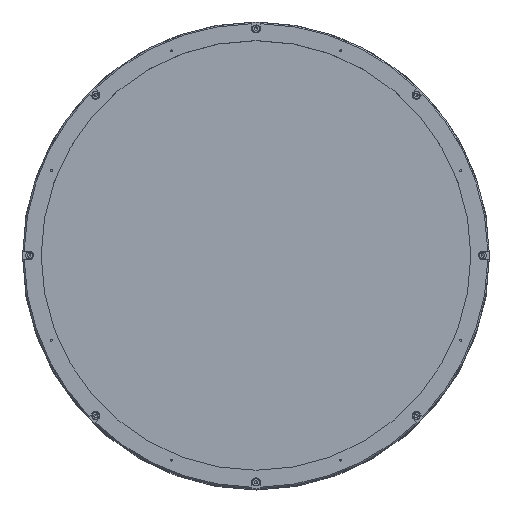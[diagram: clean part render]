
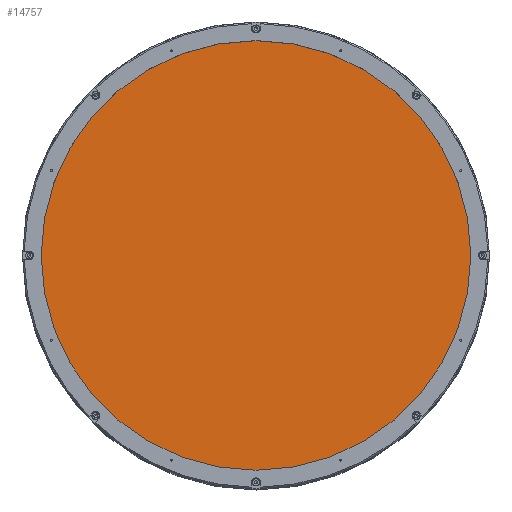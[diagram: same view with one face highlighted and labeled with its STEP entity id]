
A CAD part, top view. The second image highlights one B-rep face of the part: STEP entity #14757.
In plain terms, the highlighted planar face has unit normal (0, 0, 1).
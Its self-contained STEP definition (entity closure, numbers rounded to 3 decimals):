
#4205 = CIRCLE ( 'NONE', #9251, 161. ) ;
#4762 = PLANE ( 'NONE',  #9514 ) ;
#6841 = DIRECTION ( 'NONE',  ( 0., 0., -1. ) ) ;
#7464 = CARTESIAN_POINT ( 'NONE',  ( -161., 0., 660. ) ) ;
#9251 = AXIS2_PLACEMENT_3D ( 'NONE', #23025, #10535, #25108 ) ;
#9514 = AXIS2_PLACEMENT_3D ( 'NONE', #13000, #6841, #21490 ) ;
#10535 = DIRECTION ( 'NONE',  ( 0., 0., -1. ) ) ;
#12755 = VERTEX_POINT ( 'NONE', #7464 ) ;
#13000 = CARTESIAN_POINT ( 'NONE',  ( 0., 161.457, 660. ) ) ;
#14757 = ADVANCED_FACE ( 'NONE', ( #23402 ), #4762, .F. ) ;
#21490 = DIRECTION ( 'NONE',  ( -1., 0., 0. ) ) ;
#23025 = CARTESIAN_POINT ( 'NONE',  ( 0., 0., 660. ) ) ;
#23402 = FACE_OUTER_BOUND ( 'NONE', #26233, .T. ) ;
#25108 = DIRECTION ( 'NONE',  ( -1., 0., 0. ) ) ;
#25560 = EDGE_CURVE ( 'NONE', #12755, #12755, #4205, .T. ) ;
#26233 = EDGE_LOOP ( 'NONE', ( #27127 ) ) ;
#27127 = ORIENTED_EDGE ( 'NONE', *, *, #25560, .F. ) ;
